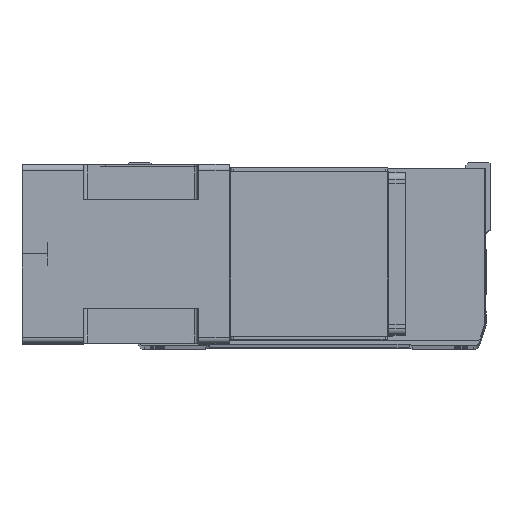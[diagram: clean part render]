
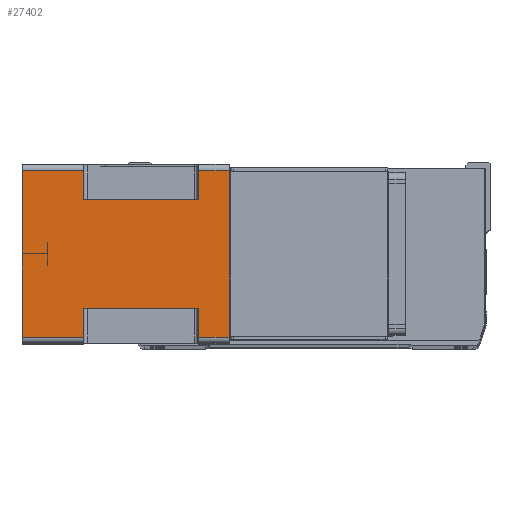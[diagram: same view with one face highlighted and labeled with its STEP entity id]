
A CAD part, top view. The second image highlights one B-rep face of the part: STEP entity #27402.
In plain terms, the highlighted planar face has unit normal (0, 0, 1) as drawn and (-1, 0, 0) by its records, which use the part's own axes.
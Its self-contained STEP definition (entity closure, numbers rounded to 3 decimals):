
#844 = CARTESIAN_POINT ( 'NONE',  ( -71., -43., -115.5 ) ) ;
#1642 = CARTESIAN_POINT ( 'NONE',  ( -71., -43., -115.5 ) ) ;
#2076 = VERTEX_POINT ( 'NONE', #36104 ) ;
#2497 = LINE ( 'NONE', #16712, #38503 ) ;
#2884 = DIRECTION ( 'NONE',  ( 0., -1., 0. ) ) ;
#3154 = CARTESIAN_POINT ( 'NONE',  ( -71., 66., -164. ) ) ;
#3382 = DIRECTION ( 'NONE',  ( 0., -1., 0. ) ) ;
#3687 = VECTOR ( 'NONE', #34706, 1000. ) ;
#4025 = VECTOR ( 'NONE', #33274, 1000. ) ;
#4525 = CARTESIAN_POINT ( 'NONE',  ( -71., -66., -115.5 ) ) ;
#5030 = DIRECTION ( 'NONE',  ( 0., 0., 1. ) ) ;
#5377 = LINE ( 'NONE', #12510, #40812 ) ;
#5663 = CARTESIAN_POINT ( 'NONE',  ( -71., -66., 0. ) ) ;
#6141 = CARTESIAN_POINT ( 'NONE',  ( -71., 66., 0. ) ) ;
#6545 = ORIENTED_EDGE ( 'NONE', *, *, #31291, .T. ) ;
#6934 = ORIENTED_EDGE ( 'NONE', *, *, #10599, .F. ) ;
#7199 = ORIENTED_EDGE ( 'NONE', *, *, #14015, .F. ) ;
#9195 = ORIENTED_EDGE ( 'NONE', *, *, #10071, .T. ) ;
#9207 = LINE ( 'NONE', #3154, #23164 ) ;
#9553 = DIRECTION ( 'NONE',  ( 0., 0., 1. ) ) ;
#9578 = CARTESIAN_POINT ( 'NONE',  ( -71., -66., -115.5 ) ) ;
#10071 = EDGE_CURVE ( 'NONE', #2076, #43960, #21233, .T. ) ;
#10448 = EDGE_CURVE ( 'NONE', #22853, #17132, #33015, .T. ) ;
#10599 = EDGE_CURVE ( 'NONE', #19718, #21864, #22225, .T. ) ;
#12497 = CARTESIAN_POINT ( 'NONE',  ( -71., 43., -115.5 ) ) ;
#12510 = CARTESIAN_POINT ( 'NONE',  ( -71., 43., -164. ) ) ;
#13829 = CARTESIAN_POINT ( 'NONE',  ( -71., -66., -164. ) ) ;
#14015 = EDGE_CURVE ( 'NONE', #17852, #22161, #5377, .T. ) ;
#14235 = DIRECTION ( 'NONE',  ( -1., 0., 0. ) ) ;
#14771 = ORIENTED_EDGE ( 'NONE', *, *, #27675, .T. ) ;
#15291 = VECTOR ( 'NONE', #19960, 1000. ) ;
#15754 = CARTESIAN_POINT ( 'NONE',  ( -71., -66., 0. ) ) ;
#16591 = CARTESIAN_POINT ( 'NONE',  ( -71., 66., -164. ) ) ;
#16712 = CARTESIAN_POINT ( 'NONE',  ( -71., -66., -164. ) ) ;
#17132 = VERTEX_POINT ( 'NONE', #844 ) ;
#17214 = FACE_OUTER_BOUND ( 'NONE', #29925, .T. ) ;
#17764 = CARTESIAN_POINT ( 'NONE',  ( -71., 66., -115.5 ) ) ;
#17852 = VERTEX_POINT ( 'NONE', #12497 ) ;
#17924 = EDGE_CURVE ( 'NONE', #40632, #22161, #37356, .T. ) ;
#17963 = VECTOR ( 'NONE', #38282, 1000. ) ;
#18478 = VERTEX_POINT ( 'NONE', #17764 ) ;
#19718 = VERTEX_POINT ( 'NONE', #6141 ) ;
#19960 = DIRECTION ( 'NONE',  ( 0., -1., 0. ) ) ;
#19987 = EDGE_CURVE ( 'NONE', #40632, #19718, #9207, .T. ) ;
#20236 = VECTOR ( 'NONE', #9553, 1000. ) ;
#20517 = CARTESIAN_POINT ( 'NONE',  ( -71., 66., -24.5 ) ) ;
#21233 = LINE ( 'NONE', #40575, #28227 ) ;
#21782 = VECTOR ( 'NONE', #2884, 1000. ) ;
#21864 = VERTEX_POINT ( 'NONE', #15754 ) ;
#21885 = LINE ( 'NONE', #13829, #3687 ) ;
#21988 = VERTEX_POINT ( 'NONE', #33246 ) ;
#22073 = VECTOR ( 'NONE', #22151, 1000. ) ;
#22151 = DIRECTION ( 'NONE',  ( 0., 1., 0. ) ) ;
#22161 = VERTEX_POINT ( 'NONE', #27213 ) ;
#22189 = ORIENTED_EDGE ( 'NONE', *, *, #17924, .T. ) ;
#22225 = LINE ( 'NONE', #5663, #4025 ) ;
#22853 = VERTEX_POINT ( 'NONE', #44422 ) ;
#23153 = EDGE_CURVE ( 'NONE', #38910, #18478, #38555, .T. ) ;
#23164 = VECTOR ( 'NONE', #34043, 1000. ) ;
#23696 = AXIS2_PLACEMENT_3D ( 'NONE', #34366, #14235, #37978 ) ;
#23736 = EDGE_CURVE ( 'NONE', #22853, #21988, #28779, .T. ) ;
#24584 = CARTESIAN_POINT ( 'NONE',  ( -71., -66., -24.5 ) ) ;
#27004 = DIRECTION ( 'NONE',  ( 0., 1., 0. ) ) ;
#27213 = CARTESIAN_POINT ( 'NONE',  ( -71., 43., -24.5 ) ) ;
#27402 = ADVANCED_FACE ( 'NONE', ( #17214 ), #31327, .T. ) ;
#27675 = EDGE_CURVE ( 'NONE', #43960, #17132, #37705, .T. ) ;
#28227 = VECTOR ( 'NONE', #44024, 1000. ) ;
#28779 = LINE ( 'NONE', #24584, #21782 ) ;
#29925 = EDGE_LOOP ( 'NONE', ( #9195, #14771, #32059, #40904, #42966, #6934, #38351, #22189, #7199, #6545, #38624, #43165 ) ) ;
#31291 = EDGE_CURVE ( 'NONE', #17852, #18478, #43932, .T. ) ;
#31327 = PLANE ( 'NONE',  #23696 ) ;
#32059 = ORIENTED_EDGE ( 'NONE', *, *, #10448, .F. ) ;
#33015 = LINE ( 'NONE', #38429, #17963 ) ;
#33246 = CARTESIAN_POINT ( 'NONE',  ( -71., -66., -24.5 ) ) ;
#33274 = DIRECTION ( 'NONE',  ( 0., -1., 0. ) ) ;
#33660 = CARTESIAN_POINT ( 'NONE',  ( -71., 43., -24.5 ) ) ;
#34043 = DIRECTION ( 'NONE',  ( 0., 0., 1. ) ) ;
#34366 = CARTESIAN_POINT ( 'NONE',  ( -71., -66., -164. ) ) ;
#34706 = DIRECTION ( 'NONE',  ( 0., 0., 1. ) ) ;
#36104 = CARTESIAN_POINT ( 'NONE',  ( -71., -66., -164. ) ) ;
#37356 = LINE ( 'NONE', #33660, #15291 ) ;
#37705 = LINE ( 'NONE', #1642, #22073 ) ;
#37978 = DIRECTION ( 'NONE',  ( 0., -1., 0. ) ) ;
#38282 = DIRECTION ( 'NONE',  ( 0., 0., -1. ) ) ;
#38351 = ORIENTED_EDGE ( 'NONE', *, *, #19987, .F. ) ;
#38429 = CARTESIAN_POINT ( 'NONE',  ( -71., -43., -164. ) ) ;
#38503 = VECTOR ( 'NONE', #3382, 1000. ) ;
#38510 = EDGE_CURVE ( 'NONE', #38910, #2076, #2497, .T. ) ;
#38555 = LINE ( 'NONE', #40340, #20236 ) ;
#38624 = ORIENTED_EDGE ( 'NONE', *, *, #23153, .F. ) ;
#38910 = VERTEX_POINT ( 'NONE', #16591 ) ;
#39121 = VECTOR ( 'NONE', #27004, 1000. ) ;
#40340 = CARTESIAN_POINT ( 'NONE',  ( -71., 66., -164. ) ) ;
#40575 = CARTESIAN_POINT ( 'NONE',  ( -71., -66., -164. ) ) ;
#40632 = VERTEX_POINT ( 'NONE', #20517 ) ;
#40812 = VECTOR ( 'NONE', #5030, 1000. ) ;
#40904 = ORIENTED_EDGE ( 'NONE', *, *, #23736, .T. ) ;
#41693 = EDGE_CURVE ( 'NONE', #21988, #21864, #21885, .T. ) ;
#42966 = ORIENTED_EDGE ( 'NONE', *, *, #41693, .T. ) ;
#43165 = ORIENTED_EDGE ( 'NONE', *, *, #38510, .T. ) ;
#43932 = LINE ( 'NONE', #9578, #39121 ) ;
#43960 = VERTEX_POINT ( 'NONE', #4525 ) ;
#44024 = DIRECTION ( 'NONE',  ( 0., 0., 1. ) ) ;
#44422 = CARTESIAN_POINT ( 'NONE',  ( -71., -43., -24.5 ) ) ;
